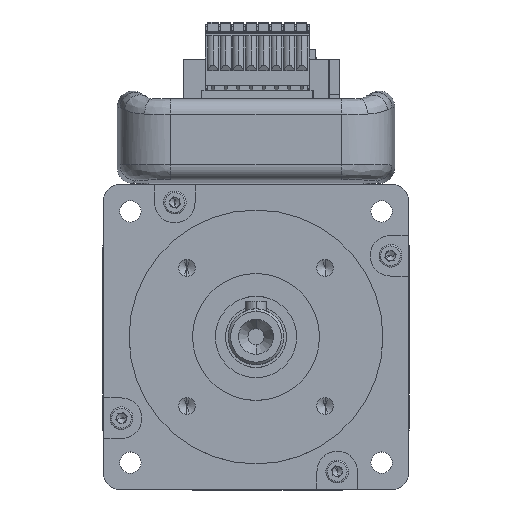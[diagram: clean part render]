
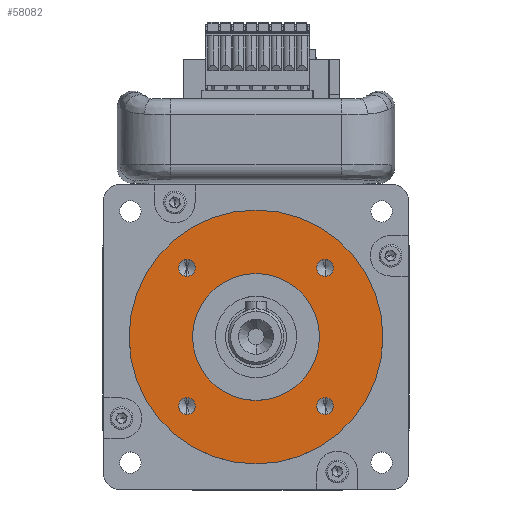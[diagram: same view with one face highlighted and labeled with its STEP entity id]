
A CAD part, top view. The second image highlights one B-rep face of the part: STEP entity #58082.
In plain terms, the highlighted planar face has unit normal (0, 0, 1) as drawn and (0, 0, -1) by its records, which use the part's own axes.
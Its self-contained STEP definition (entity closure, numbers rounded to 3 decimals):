
#278 = CARTESIAN_POINT ( 'NONE',  ( -13.612, -13.612, -3. ) ) ;
#598 = ORIENTED_EDGE ( 'NONE', *, *, #91571, .F. ) ;
#930 = DIRECTION ( 'NONE',  ( 0., 0., -1. ) ) ;
#2560 = CIRCLE ( 'NONE', #74144, 1.65 ) ;
#3094 = FACE_BOUND ( 'NONE', #84393, .T. ) ;
#3224 = CARTESIAN_POINT ( 'NONE',  ( -12.5, 0., -3. ) ) ;
#4029 = CARTESIAN_POINT ( 'NONE',  ( -13.612, -13.612, -3. ) ) ;
#7389 = CARTESIAN_POINT ( 'NONE',  ( 25., 0., -3. ) ) ;
#7596 = DIRECTION ( 'NONE',  ( -1., 0., 0. ) ) ;
#9048 = EDGE_CURVE ( 'NONE', #58478, #59991, #62159, .T. ) ;
#9275 = CIRCLE ( 'NONE', #44337, 25. ) ;
#9577 = EDGE_CURVE ( 'NONE', #78034, #31491, #27980, .T. ) ;
#9698 = CARTESIAN_POINT ( 'NONE',  ( 13.612, 13.612, -3. ) ) ;
#10398 = EDGE_CURVE ( 'NONE', #45737, #16433, #12027, .T. ) ;
#11350 = DIRECTION ( 'NONE',  ( -1., 0., 0. ) ) ;
#12027 = CIRCLE ( 'NONE', #36223, 12.5 ) ;
#12466 = ORIENTED_EDGE ( 'NONE', *, *, #9048, .F. ) ;
#13678 = EDGE_LOOP ( 'NONE', ( #48059, #77698 ) ) ;
#14240 = AXIS2_PLACEMENT_3D ( 'NONE', #44388, #930, #51658 ) ;
#16433 = VERTEX_POINT ( 'NONE', #88912 ) ;
#16619 = VERTEX_POINT ( 'NONE', #38589 ) ;
#16954 = CIRCLE ( 'NONE', #48111, 1.65 ) ;
#16969 = DIRECTION ( 'NONE',  ( -1., 0., 0. ) ) ;
#17245 = DIRECTION ( 'NONE',  ( 0., 0., -1. ) ) ;
#17686 = EDGE_LOOP ( 'NONE', ( #32829, #26713 ) ) ;
#18711 = CARTESIAN_POINT ( 'NONE',  ( 0., 0., -3. ) ) ;
#19853 = CARTESIAN_POINT ( 'NONE',  ( 11.962, 13.612, -3. ) ) ;
#20683 = AXIS2_PLACEMENT_3D ( 'NONE', #278, #51006, #7596 ) ;
#21377 = CARTESIAN_POINT ( 'NONE',  ( 15.262, -13.612, -3. ) ) ;
#26030 = DIRECTION ( 'NONE',  ( -1., 0., 0. ) ) ;
#26459 = CARTESIAN_POINT ( 'NONE',  ( -15.262, -13.612, -3. ) ) ;
#26713 = ORIENTED_EDGE ( 'NONE', *, *, #52497, .T. ) ;
#26912 = ORIENTED_EDGE ( 'NONE', *, *, #60664, .F. ) ;
#27344 = CARTESIAN_POINT ( 'NONE',  ( 13.612, -13.612, -3. ) ) ;
#27376 = PLANE ( 'NONE',  #38841 ) ;
#27980 = CIRCLE ( 'NONE', #61081, 1.65 ) ;
#28345 = DIRECTION ( 'NONE',  ( 0., 0., -1. ) ) ;
#28643 = ORIENTED_EDGE ( 'NONE', *, *, #10398, .F. ) ;
#28675 = CIRCLE ( 'NONE', #56030, 1.65 ) ;
#31491 = VERTEX_POINT ( 'NONE', #19853 ) ;
#32705 = CARTESIAN_POINT ( 'NONE',  ( -11.962, -13.612, -3. ) ) ;
#32829 = ORIENTED_EDGE ( 'NONE', *, *, #67505, .T. ) ;
#32876 = DIRECTION ( 'NONE',  ( 0., 0., -1. ) ) ;
#32902 = CARTESIAN_POINT ( 'NONE',  ( 0., 0., -3. ) ) ;
#34296 = CARTESIAN_POINT ( 'NONE',  ( 0., 0., -3. ) ) ;
#34711 = DIRECTION ( 'NONE',  ( -1., 0., 0. ) ) ;
#36223 = AXIS2_PLACEMENT_3D ( 'NONE', #34296, #84825, #41577 ) ;
#37902 = CIRCLE ( 'NONE', #84322, 12.5 ) ;
#38589 = CARTESIAN_POINT ( 'NONE',  ( -15.262, 13.612, -3. ) ) ;
#38609 = DIRECTION ( 'NONE',  ( 0., 0., -1. ) ) ;
#38841 = AXIS2_PLACEMENT_3D ( 'NONE', #78069, #85248, #42012 ) ;
#39442 = FACE_OUTER_BOUND ( 'NONE', #17686, .T. ) ;
#39752 = EDGE_CURVE ( 'NONE', #52708, #47355, #83613, .T. ) ;
#40192 = DIRECTION ( 'NONE',  ( -1., 0., 0. ) ) ;
#40606 = EDGE_LOOP ( 'NONE', ( #28643, #26912 ) ) ;
#41577 = DIRECTION ( 'NONE',  ( -1., 0., 0. ) ) ;
#41715 = FACE_BOUND ( 'NONE', #13678, .T. ) ;
#42012 = DIRECTION ( 'NONE',  ( -1., 0., 0. ) ) ;
#42447 = EDGE_LOOP ( 'NONE', ( #62928, #598 ) ) ;
#42483 = VERTEX_POINT ( 'NONE', #7389 ) ;
#43490 = EDGE_CURVE ( 'NONE', #83385, #16619, #28675, .T. ) ;
#44337 = AXIS2_PLACEMENT_3D ( 'NONE', #32902, #83479, #40192 ) ;
#44388 = CARTESIAN_POINT ( 'NONE',  ( 13.612, -13.612, -3. ) ) ;
#45737 = VERTEX_POINT ( 'NONE', #3224 ) ;
#47355 = VERTEX_POINT ( 'NONE', #32705 ) ;
#48059 = ORIENTED_EDGE ( 'NONE', *, *, #83474, .F. ) ;
#48111 = AXIS2_PLACEMENT_3D ( 'NONE', #71771, #28345, #78992 ) ;
#48538 = AXIS2_PLACEMENT_3D ( 'NONE', #4029, #54775, #11350 ) ;
#48590 = CIRCLE ( 'NONE', #20683, 1.65 ) ;
#49574 = AXIS2_PLACEMENT_3D ( 'NONE', #60692, #17245, #67987 ) ;
#51006 = DIRECTION ( 'NONE',  ( 0., 0., -1. ) ) ;
#51658 = DIRECTION ( 'NONE',  ( -1., 0., 0. ) ) ;
#52325 = VERTEX_POINT ( 'NONE', #80698 ) ;
#52497 = EDGE_CURVE ( 'NONE', #52325, #42483, #9275, .T. ) ;
#52551 = CIRCLE ( 'NONE', #49574, 25. ) ;
#52708 = VERTEX_POINT ( 'NONE', #26459 ) ;
#53095 = ORIENTED_EDGE ( 'NONE', *, *, #72499, .F. ) ;
#53686 = CARTESIAN_POINT ( 'NONE',  ( 15.262, 13.612, -3. ) ) ;
#54775 = DIRECTION ( 'NONE',  ( 0., 0., -1. ) ) ;
#56030 = AXIS2_PLACEMENT_3D ( 'NONE', #76215, #32876, #83446 ) ;
#57462 = CIRCLE ( 'NONE', #57777, 1.65 ) ;
#57777 = AXIS2_PLACEMENT_3D ( 'NONE', #81904, #38609, #89083 ) ;
#58082 = ADVANCED_FACE ( 'NONE', ( #41715, #80154, #3094, #77930, #58706, #39442 ), #27376, .T. ) ;
#58478 = VERTEX_POINT ( 'NONE', #76708 ) ;
#58706 = FACE_BOUND ( 'NONE', #40606, .T. ) ;
#59204 = CARTESIAN_POINT ( 'NONE',  ( -11.962, 13.612, -3. ) ) ;
#59991 = VERTEX_POINT ( 'NONE', #21377 ) ;
#60423 = DIRECTION ( 'NONE',  ( 0., 0., -1. ) ) ;
#60664 = EDGE_CURVE ( 'NONE', #16433, #45737, #37902, .T. ) ;
#60692 = CARTESIAN_POINT ( 'NONE',  ( 0., 0., -3. ) ) ;
#61081 = AXIS2_PLACEMENT_3D ( 'NONE', #9698, #60423, #16969 ) ;
#61563 = EDGE_CURVE ( 'NONE', #59991, #58478, #2560, .T. ) ;
#62159 = CIRCLE ( 'NONE', #14240, 1.65 ) ;
#62928 = ORIENTED_EDGE ( 'NONE', *, *, #39752, .F. ) ;
#67505 = EDGE_CURVE ( 'NONE', #42483, #52325, #52551, .T. ) ;
#67987 = DIRECTION ( 'NONE',  ( -1., 0., 0. ) ) ;
#69463 = DIRECTION ( 'NONE',  ( 0., 0., -1. ) ) ;
#71771 = CARTESIAN_POINT ( 'NONE',  ( -13.612, 13.612, -3. ) ) ;
#72259 = ORIENTED_EDGE ( 'NONE', *, *, #61563, .F. ) ;
#72499 = EDGE_CURVE ( 'NONE', #16619, #83385, #16954, .T. ) ;
#74144 = AXIS2_PLACEMENT_3D ( 'NONE', #27344, #78039, #34711 ) ;
#76215 = CARTESIAN_POINT ( 'NONE',  ( -13.612, 13.612, -3. ) ) ;
#76708 = CARTESIAN_POINT ( 'NONE',  ( 11.962, -13.612, -3. ) ) ;
#77698 = ORIENTED_EDGE ( 'NONE', *, *, #9577, .F. ) ;
#77930 = FACE_BOUND ( 'NONE', #42447, .T. ) ;
#78034 = VERTEX_POINT ( 'NONE', #53686 ) ;
#78039 = DIRECTION ( 'NONE',  ( 0., 0., -1. ) ) ;
#78069 = CARTESIAN_POINT ( 'NONE',  ( 0., 0., -3. ) ) ;
#78992 = DIRECTION ( 'NONE',  ( -1., 0., 0. ) ) ;
#79408 = EDGE_LOOP ( 'NONE', ( #53095, #79839 ) ) ;
#79839 = ORIENTED_EDGE ( 'NONE', *, *, #43490, .F. ) ;
#80154 = FACE_BOUND ( 'NONE', #79408, .T. ) ;
#80698 = CARTESIAN_POINT ( 'NONE',  ( -25., 0., -3. ) ) ;
#81904 = CARTESIAN_POINT ( 'NONE',  ( 13.612, 13.612, -3. ) ) ;
#83385 = VERTEX_POINT ( 'NONE', #59204 ) ;
#83446 = DIRECTION ( 'NONE',  ( -1., 0., 0. ) ) ;
#83474 = EDGE_CURVE ( 'NONE', #31491, #78034, #57462, .T. ) ;
#83479 = DIRECTION ( 'NONE',  ( 0., 0., -1. ) ) ;
#83613 = CIRCLE ( 'NONE', #48538, 1.65 ) ;
#84322 = AXIS2_PLACEMENT_3D ( 'NONE', #18711, #69463, #26030 ) ;
#84393 = EDGE_LOOP ( 'NONE', ( #12466, #72259 ) ) ;
#84825 = DIRECTION ( 'NONE',  ( 0., 0., -1. ) ) ;
#85248 = DIRECTION ( 'NONE',  ( 0., 0., -1. ) ) ;
#88912 = CARTESIAN_POINT ( 'NONE',  ( 12.5, 0., -3. ) ) ;
#89083 = DIRECTION ( 'NONE',  ( -1., 0., 0. ) ) ;
#91571 = EDGE_CURVE ( 'NONE', #47355, #52708, #48590, .T. ) ;
